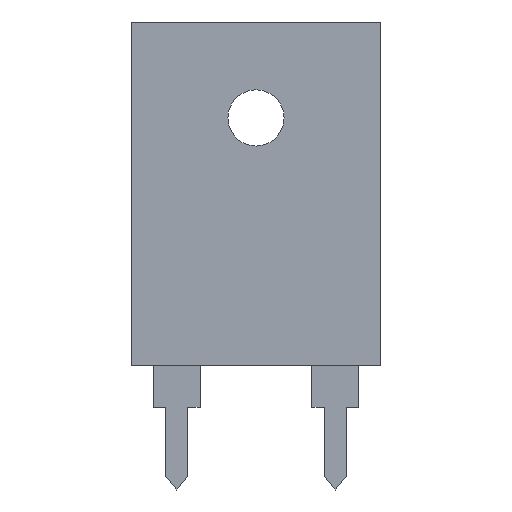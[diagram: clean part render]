
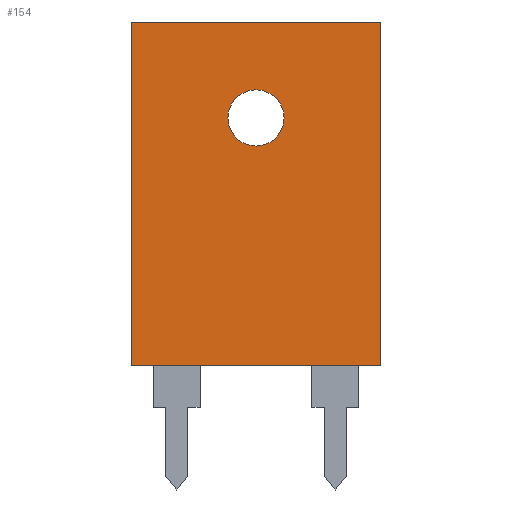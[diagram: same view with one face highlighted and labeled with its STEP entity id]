
A CAD part, front view. The second image highlights one B-rep face of the part: STEP entity #154.
In plain terms, the highlighted planar face has unit normal (0, -1, 0) as drawn and (0, 0, -1) by its records, which use the part's own axes.
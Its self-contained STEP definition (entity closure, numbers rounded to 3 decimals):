
#154=ADVANCED_FACE('',(#465,#467),#469,.F.);
#465=FACE_BOUND('',#466,.T.);
#466=EDGE_LOOP('',(#713,#714,#715,#716));
#467=FACE_BOUND('',#468,.T.);
#468=EDGE_LOOP('',(#717));
#469=PLANE('',#470);
#470=AXIS2_PLACEMENT_3D('',#471,#472,#473);
#471=CARTESIAN_POINT('',(0.,0.,0.25));
#472=DIRECTION('',(0.,0.,1.));
#473=DIRECTION('',(-1.,0.,0.));
#713=ORIENTED_EDGE('',*,*,#883,.F.);
#714=ORIENTED_EDGE('',*,*,#869,.F.);
#715=ORIENTED_EDGE('',*,*,#865,.F.);
#716=ORIENTED_EDGE('',*,*,#876,.F.);
#717=ORIENTED_EDGE('',*,*,#864,.F.);
#864=EDGE_CURVE('',#957,#957,#958,.F.);
#865=EDGE_CURVE('',#959,#960,#961,.F.);
#869=EDGE_CURVE('',#960,#967,#968,.F.);
#876=EDGE_CURVE('',#980,#959,#981,.F.);
#883=EDGE_CURVE('',#967,#980,#993,.F.);
#957=VERTEX_POINT('',#1114);
#958=CIRCLE('',#1115,1.8);
#959=VERTEX_POINT('',#1119);
#960=VERTEX_POINT('',#1120);
#961=LINE('',#1121,#1122);
#967=VERTEX_POINT('',#1135);
#968=LINE('',#1136,#1137);
#980=VERTEX_POINT('',#1162);
#981=LINE('',#1163,#1164);
#993=LINE('',#1189,#1190);
#1114=CARTESIAN_POINT('',(-1.8,-4.85,0.25));
#1115=AXIS2_PLACEMENT_3D('',#1116,#1117,#1118);
#1116=CARTESIAN_POINT('',(0.,-4.85,0.25));
#1117=DIRECTION('',(0.,0.,1.));
#1118=DIRECTION('',(-1.,0.,0.));
#1119=CARTESIAN_POINT('',(-8.,-11.,0.25));
#1120=CARTESIAN_POINT('',(8.,-11.,0.25));
#1121=CARTESIAN_POINT('',(8.,-11.,0.25));
#1122=VECTOR('',#1123,1.);
#1123=DIRECTION('',(-1.,0.,0.));
#1135=CARTESIAN_POINT('',(8.,11.,0.25));
#1136=CARTESIAN_POINT('',(8.,11.,0.25));
#1137=VECTOR('',#1138,1.);
#1138=DIRECTION('',(0.,-1.,0.));
#1162=CARTESIAN_POINT('',(-8.,11.,0.25));
#1163=CARTESIAN_POINT('',(-8.,-11.,0.25));
#1164=VECTOR('',#1165,1.);
#1165=DIRECTION('',(0.,1.,0.));
#1189=CARTESIAN_POINT('',(-8.,11.,0.25));
#1190=VECTOR('',#1191,1.);
#1191=DIRECTION('',(1.,0.,0.));
